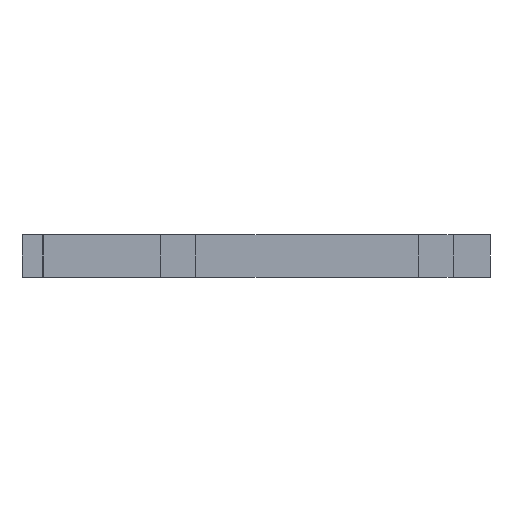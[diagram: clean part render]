
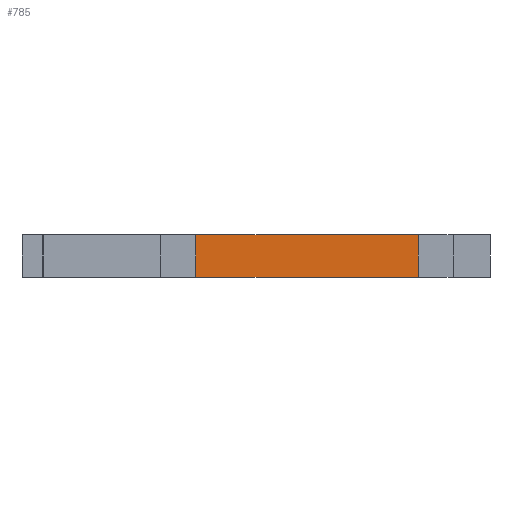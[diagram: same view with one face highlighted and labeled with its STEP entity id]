
A CAD part, left-side view. The second image highlights one B-rep face of the part: STEP entity #785.
In plain terms, the highlighted planar face has unit normal (-1, 0, 0).
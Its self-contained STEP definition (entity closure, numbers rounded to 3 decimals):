
#97 = VECTOR ( 'NONE', #1027, 1000. ) ;
#135 = AXIS2_PLACEMENT_3D ( 'NONE', #698, #986, #1112 ) ;
#136 = CARTESIAN_POINT ( 'NONE',  ( -120., -92.3, 10. ) ) ;
#156 = DIRECTION ( 'NONE',  ( 0., -1., 0. ) ) ;
#274 = VERTEX_POINT ( 'NONE', #1114 ) ;
#291 = EDGE_CURVE ( 'NONE', #995, #274, #1524, .T. ) ;
#300 = DIRECTION ( 'NONE',  ( 0., 0., -1. ) ) ;
#317 = CARTESIAN_POINT ( 'NONE',  ( -120., -40.5, 10. ) ) ;
#326 = VECTOR ( 'NONE', #300, 1000. ) ;
#331 = EDGE_LOOP ( 'NONE', ( #900, #1389, #484, #576 ) ) ;
#374 = CARTESIAN_POINT ( 'NONE',  ( -120., -92.3, 0. ) ) ;
#450 = FACE_OUTER_BOUND ( 'NONE', #331, .T. ) ;
#484 = ORIENTED_EDGE ( 'NONE', *, *, #291, .F. ) ;
#540 = LINE ( 'NONE', #374, #1097 ) ;
#576 = ORIENTED_EDGE ( 'NONE', *, *, #859, .T. ) ;
#625 = VERTEX_POINT ( 'NONE', #1502 ) ;
#698 = CARTESIAN_POINT ( 'NONE',  ( -120., -92.3, 10. ) ) ;
#704 = PLANE ( 'NONE',  #135 ) ;
#775 = LINE ( 'NONE', #1018, #97 ) ;
#785 = ADVANCED_FACE ( 'NONE', ( #450 ), #704, .F. ) ;
#859 = EDGE_CURVE ( 'NONE', #995, #625, #1503, .T. ) ;
#900 = ORIENTED_EDGE ( 'NONE', *, *, #1299, .T. ) ;
#916 = CARTESIAN_POINT ( 'NONE',  ( -120., -92.3, 0. ) ) ;
#986 = DIRECTION ( 'NONE',  ( 1., 0., 0. ) ) ;
#995 = VERTEX_POINT ( 'NONE', #317 ) ;
#1018 = CARTESIAN_POINT ( 'NONE',  ( -120., -92.3, 10. ) ) ;
#1027 = DIRECTION ( 'NONE',  ( 0., 0., -1. ) ) ;
#1097 = VECTOR ( 'NONE', #1218, 1000. ) ;
#1112 = DIRECTION ( 'NONE',  ( 0., 1., 0. ) ) ;
#1114 = CARTESIAN_POINT ( 'NONE',  ( -120., -92.3, 10. ) ) ;
#1218 = DIRECTION ( 'NONE',  ( 0., -1., 0. ) ) ;
#1299 = EDGE_CURVE ( 'NONE', #625, #1778, #540, .T. ) ;
#1389 = ORIENTED_EDGE ( 'NONE', *, *, #1671, .F. ) ;
#1502 = CARTESIAN_POINT ( 'NONE',  ( -120., -40.5, 0. ) ) ;
#1503 = LINE ( 'NONE', #1514, #326 ) ;
#1506 = VECTOR ( 'NONE', #156, 1000. ) ;
#1514 = CARTESIAN_POINT ( 'NONE',  ( -120., -40.5, 10. ) ) ;
#1524 = LINE ( 'NONE', #136, #1506 ) ;
#1671 = EDGE_CURVE ( 'NONE', #274, #1778, #775, .T. ) ;
#1778 = VERTEX_POINT ( 'NONE', #916 ) ;
